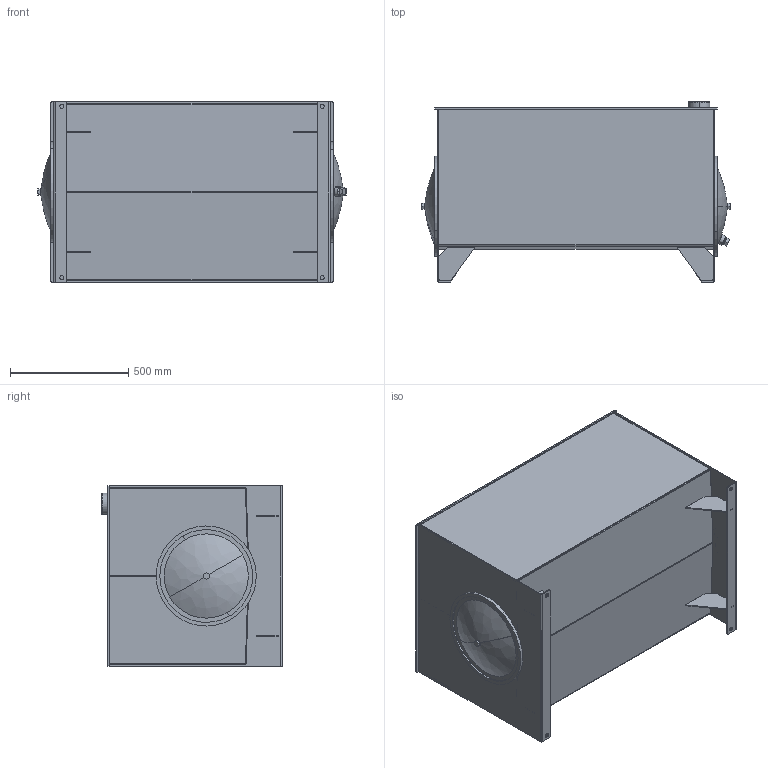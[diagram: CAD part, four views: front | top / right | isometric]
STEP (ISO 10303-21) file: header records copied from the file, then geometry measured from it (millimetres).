
FILE_DESCRIPTION (( 'STEP AP214' ), '1' );
FILE_NAME ('T2-100.STEP', '2022-01-07T13:27:51', ( '' ), ( '' ), 'SwSTEP 2.0', 'SolidWorks 2013', '' );
FILE_SCHEMA (( 'AUTOMOTIVE_DESIGN' ));
Length unit declared in the file: inch
Products named in the file (17): 16.00 GASKET; 0.625 - 11 HEX BOLT; 0.625 - 11 BAFFLE NUT; TL-ECD-16; T2-100-BDY; T2-100-BFL; 16.00 END COVER; FILLER RISER; TL-EC-16; T2-100; CRUSH WASHER; DRAIN; T2-100-EB; 16.00 END COVER WITH DRAIN; T2-100-EA; T2-100-GST; T2-100-LD
Assembly tree (23 placements, depth 3):
  T2-100
    T2-100-LD
    T2-100-EA
    T2-100-EB
    T2-100-BDY
    T2-100-BFL
    T2-100-GST  x4
    FILLER RISER
    TL-EC-16
      16.00 END COVER
      16.00 GASKET
      CRUSH WASHER
      0.625 - 11 HEX BOLT
      0.625 - 11 BAFFLE NUT
    TL-ECD-16
      16.00 GASKET
      CRUSH WASHER
      0.625 - 11 HEX BOLT
      0.625 - 11 BAFFLE NUT
      16.00 END COVER WITH DRAIN
      DRAIN
Bounding box: 1303.01 x 762 x 762 mm (x, y, z)
Volume: 22095690.6 mm3; surface area: 10519808.3 mm2
Topology: 22 solids, 22 shells, 294 faces, 676 edges, 434 vertices
Faces by surface type: plane 165, cylinder 109, cone 10, bspline 8, torus 2
Entity records: 8553 total; most frequent: CARTESIAN_POINT 1469, DIRECTION 1242, ORIENTED_EDGE 1076, EDGE_CURVE 538, AXIS2_PLACEMENT_3D 465, VERTEX_POINT 342, VECTOR 312, LINE 312
